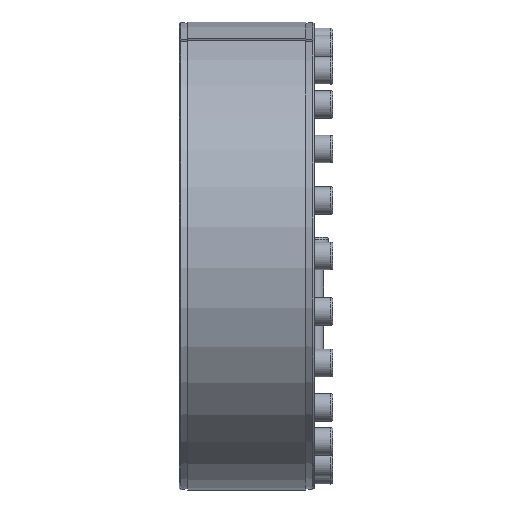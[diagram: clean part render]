
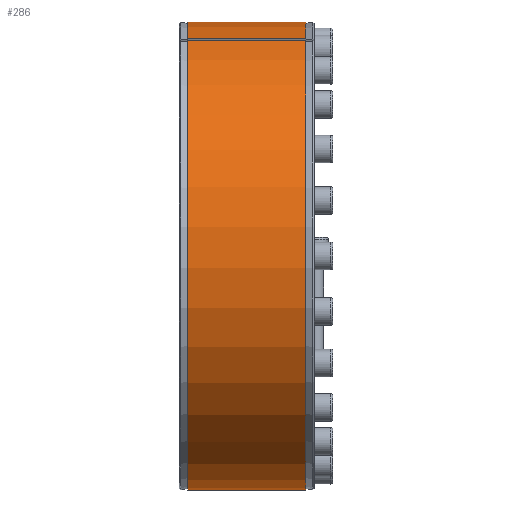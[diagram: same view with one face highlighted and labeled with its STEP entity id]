
A CAD part, left-side view. The second image highlights one B-rep face of the part: STEP entity #286.
In plain terms, the highlighted cylindrical face has radius 277.5 mm (diameter 555 mm), a partial arc.
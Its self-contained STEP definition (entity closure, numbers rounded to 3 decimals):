
#286 = ADVANCED_FACE( '', ( #728 ), #729, .T. );
#728 = FACE_OUTER_BOUND( '', #1300, .T. );
#729 = CYLINDRICAL_SURFACE( '', #1301, 277.5 );
#1300 = EDGE_LOOP( '', ( #2154, #2155, #2156, #2157 ) );
#1301 = AXIS2_PLACEMENT_3D( '', #2158, #2159, #2160 );
#2154 = ORIENTED_EDGE( '', *, *, #2663, .T. );
#2155 = ORIENTED_EDGE( '', *, *, #2656, .T. );
#2156 = ORIENTED_EDGE( '', *, *, #2642, .F. );
#2157 = ORIENTED_EDGE( '', *, *, #2707, .T. );
#2158 = CARTESIAN_POINT( '', ( 0., -60., 0. ) );
#2159 = DIRECTION( '', ( 0., 1., 0. ) );
#2160 = DIRECTION( '', ( 0., 0., -1. ) );
#2642 = EDGE_CURVE( '', #3157, #3158, #3159, .T. );
#2656 = EDGE_CURVE( '', #3178, #3158, #3179, .T. );
#2663 = EDGE_CURVE( '', #3190, #3178, #3191, .T. );
#2707 = EDGE_CURVE( '', #3157, #3190, #3253, .F. );
#3157 = VERTEX_POINT( '', #3858 );
#3158 = VERTEX_POINT( '', #3859 );
#3159 = CIRCLE( '', #3860, 277.5 );
#3178 = VERTEX_POINT( '', #3894 );
#3179 = LINE( '', #3895, #3896 );
#3190 = VERTEX_POINT( '', #3915 );
#3191 = CIRCLE( '', #3916, 277.5 );
#3253 = LINE( '', #3995, #3996 );
#3858 = CARTESIAN_POINT( '', ( -108.96, 10., 255.214 ) );
#3859 = CARTESIAN_POINT( '', ( -103.417, 10., 257.51 ) );
#3860 = AXIS2_PLACEMENT_3D( '', #4493, #4494, #4495 );
#3894 = CARTESIAN_POINT( '', ( -103.417, 150., 257.51 ) );
#3895 = CARTESIAN_POINT( '', ( -103.417, -60., 257.51 ) );
#3896 = VECTOR( '', #4508, 1000. );
#3915 = CARTESIAN_POINT( '', ( -108.96, 150., 255.214 ) );
#3916 = AXIS2_PLACEMENT_3D( '', #4514, #4515, #4516 );
#3995 = CARTESIAN_POINT( '', ( -108.96, -60., 255.214 ) );
#3996 = VECTOR( '', #4567, 1000. );
#4493 = CARTESIAN_POINT( '', ( 0., 10., 0. ) );
#4494 = DIRECTION( '', ( 0., -1., 0. ) );
#4495 = DIRECTION( '', ( 0., 0., -1. ) );
#4508 = DIRECTION( '', ( 0., -1., 0. ) );
#4514 = CARTESIAN_POINT( '', ( 0., 150., 0. ) );
#4515 = DIRECTION( '', ( 0., -1., 0. ) );
#4516 = DIRECTION( '', ( 0., 0., -1. ) );
#4567 = DIRECTION( '', ( 0., -1., 0. ) );
